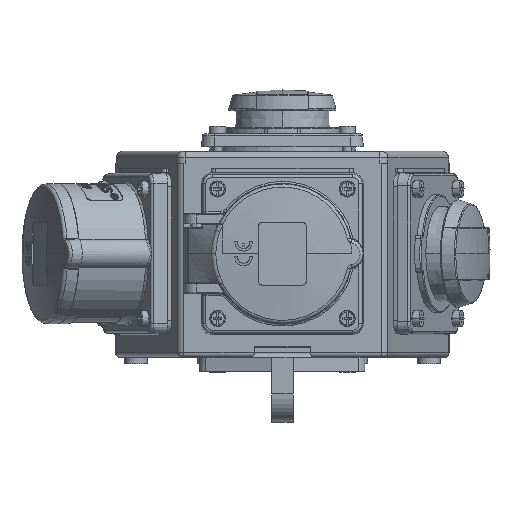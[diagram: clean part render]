
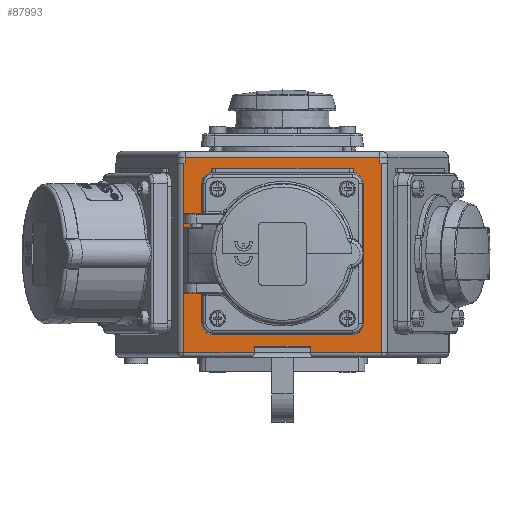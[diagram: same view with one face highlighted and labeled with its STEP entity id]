
A CAD part, front view. The second image highlights one B-rep face of the part: STEP entity #87993.
In plain terms, the highlighted planar face has unit normal (0, -1, 0).
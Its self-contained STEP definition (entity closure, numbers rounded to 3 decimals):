
#6517=DIRECTION('',(0.,0.,1.));
#6518=VECTOR('',#6517,2.5);
#6519=CARTESIAN_POINT('',(13.,-66.06,-46.));
#6520=LINE('4329',#6519,#6518);
#6524=DIRECTION('',(1.,0.,0.));
#6525=VECTOR('',#6524,26.);
#6526=CARTESIAN_POINT('',(-13.,-66.06,-43.5));
#6527=LINE('4331',#6526,#6525);
#6531=DIRECTION('',(0.,0.,1.));
#6532=VECTOR('',#6531,2.5);
#6533=CARTESIAN_POINT('',(-13.,-66.06,-46.));
#6534=LINE('4330',#6533,#6532);
#6538=DIRECTION('',(-1.,0.,0.));
#6539=VECTOR('',#6538,32.82);
#6540=CARTESIAN_POINT('',(-13.,-66.06,-46.));
#6541=LINE('4341',#6540,#6539);
#6545=DIRECTION('',(0.,0.,1.));
#6546=VECTOR('',#6545,87.8);
#6547=CARTESIAN_POINT('',(-45.82,-66.06,
-46.));
#6548=LINE('3549',#6547,#6546);
#6552=DIRECTION('',(0.,0.,-1.));
#6553=VECTOR('',#6552,2.7);
#6554=CARTESIAN_POINT('',(-45.094,-66.06,44.5));
#6555=LINE('3930',#6554,#6553);
#6559=DIRECTION('',(1.,0.,0.));
#6560=VECTOR('',#6559,90.187);
#6561=CARTESIAN_POINT('',(-45.094,-66.06,44.5));
#6562=LINE('3873',#6561,#6560);
#6566=DIRECTION('',(0.,0.,-1.));
#6567=VECTOR('',#6566,2.7);
#6568=CARTESIAN_POINT('',(45.094,-66.06,44.5));
#6569=LINE('3931',#6568,#6567);
#6573=DIRECTION('',(-1.,0.,0.));
#6574=VECTOR('',#6573,32.82);
#6575=CARTESIAN_POINT('',(45.82,-66.06,
-46.));
#6576=LINE('4340',#6575,#6574);
#6580=DIRECTION('',(0.,0.,-1.));
#6581=VECTOR('',#6580,2.);
#6582=CARTESIAN_POINT('',(-33.,-66.06,39.7));
#6583=LINE('3282',#6582,#6581);
#6587=DIRECTION('',(1.,0.,0.));
#6588=VECTOR('',#6587,66.);
#6589=CARTESIAN_POINT('',(-33.,-66.06,37.7));
#6590=LINE('3283',#6589,#6588);
#6594=DIRECTION('',(0.,0.,1.));
#6595=VECTOR('',#6594,2.);
#6596=CARTESIAN_POINT('',(33.,-66.06,37.7));
#6597=LINE('3284',#6596,#6595);
#6601=DIRECTION('',(-1.,0.,0.));
#6602=VECTOR('',#6601,66.);
#6603=CARTESIAN_POINT('',(33.,-66.06,39.7));
#6604=LINE('3285',#6603,#6602);
#6608=CARTESIAN_POINT('',(0.,-66.06,0.));
#6609=DIRECTION('',(0.,1.,0.));
#6610=DIRECTION('',(0.,0.,-1.));
#6611=AXIS2_PLACEMENT_3D('',#6608,#6609,#6610);
#6616=CARTESIAN_POINT('',(0.,-66.06,0.));
#6617=DIRECTION('',(0.,1.,0.));
#6618=DIRECTION('',(0.,0.,1.));
#6619=AXIS2_PLACEMENT_3D('',#6616,#6617,#6618);
#6624=CARTESIAN_POINT('',(-30.,-66.06,30.));
#6625=DIRECTION('',(0.,-1.,0.));
#6626=DIRECTION('',(0.,0.,1.));
#6627=AXIS2_PLACEMENT_3D('',#6624,#6625,#6626);
#6632=CARTESIAN_POINT('',(-30.,-66.06,30.));
#6633=DIRECTION('',(0.,-1.,0.));
#6634=DIRECTION('',(0.,0.,-1.));
#6635=AXIS2_PLACEMENT_3D('',#6632,#6633,#6634);
#6640=CARTESIAN_POINT('',(30.,-66.06,30.));
#6641=DIRECTION('',(0.,-1.,0.));
#6642=DIRECTION('',(0.,0.,1.));
#6643=AXIS2_PLACEMENT_3D('',#6640,#6641,#6642);
#6648=CARTESIAN_POINT('',(30.,-66.06,30.));
#6649=DIRECTION('',(0.,-1.,0.));
#6650=DIRECTION('',(0.,0.,-1.));
#6651=AXIS2_PLACEMENT_3D('',#6648,#6649,#6650);
#6656=CARTESIAN_POINT('',(-30.,-66.06,-30.));
#6657=DIRECTION('',(0.,-1.,0.));
#6658=DIRECTION('',(0.,0.,1.));
#6659=AXIS2_PLACEMENT_3D('',#6656,#6657,#6658);
#6664=CARTESIAN_POINT('',(-30.,-66.06,-30.));
#6665=DIRECTION('',(0.,-1.,0.));
#6666=DIRECTION('',(0.,0.,-1.));
#6667=AXIS2_PLACEMENT_3D('',#6664,#6665,#6666);
#6672=CARTESIAN_POINT('',(30.,-66.06,-30.));
#6673=DIRECTION('',(0.,-1.,0.));
#6674=DIRECTION('',(0.,0.,1.));
#6675=AXIS2_PLACEMENT_3D('',#6672,#6673,#6674);
#6680=CARTESIAN_POINT('',(30.,-66.06,-30.));
#6681=DIRECTION('',(0.,-1.,0.));
#6682=DIRECTION('',(0.,0.,-1.));
#6683=AXIS2_PLACEMENT_3D('',#6680,#6681,#6682);
#8741=DIRECTION('',(1.,0.,0.));
#8742=VECTOR('',#8741,0.727);
#8743=CARTESIAN_POINT('',(45.094,-66.06,41.8));
#8744=LINE('3912',#8743,#8742);
#9030=DIRECTION('',(1.,0.,0.));
#9031=VECTOR('',#9030,0.727);
#9032=CARTESIAN_POINT('',(-45.82,-66.06,41.8));
#9033=LINE('3911',#9032,#9031);
#47303=DIRECTION('',(0.,0.,1.));
#47304=VECTOR('',#47303,87.8);
#47305=CARTESIAN_POINT('',(45.82,-66.06,
-46.));
#47306=LINE('3550',#47305,#47304);
#71778=CARTESIAN_POINT('',(45.82,-66.06,-46.));
#71779=VERTEX_POINT('',#71778);
#71780=CARTESIAN_POINT('',(-45.82,-66.06,-46.));
#71781=VERTEX_POINT('',#71780);
#71854=CARTESIAN_POINT('',(-33.,-66.06,39.7));
#71855=CARTESIAN_POINT('',(-33.,-66.06,37.7));
#71856=VERTEX_POINT('',#71854);
#71857=VERTEX_POINT('',#71855);
#71858=CARTESIAN_POINT('',(33.,-66.06,37.7));
#71859=VERTEX_POINT('',#71858);
#71860=CARTESIAN_POINT('',(33.,-66.06,39.7));
#71861=VERTEX_POINT('',#71860);
#72150=CARTESIAN_POINT('',(-45.82,-66.06,41.8));
#72152=VERTEX_POINT('',#72150);
#72153=CARTESIAN_POINT('',(45.82,-66.06,41.8));
#72155=VERTEX_POINT('',#72153);
#72561=CARTESIAN_POINT('',(-45.094,-66.06,44.5));
#72562=VERTEX_POINT('',#72561);
#72565=CARTESIAN_POINT('',(45.094,-66.06,44.5));
#72566=VERTEX_POINT('',#72565);
#72611=CARTESIAN_POINT('',(-45.094,-66.06,41.8));
#72613=VERTEX_POINT('',#72611);
#72616=CARTESIAN_POINT('',(45.094,-66.06,41.8));
#72618=VERTEX_POINT('',#72616);
#73051=CARTESIAN_POINT('',(13.,-66.06,-46.));
#73052=CARTESIAN_POINT('',(13.,-66.06,-43.5));
#73053=VERTEX_POINT('',#73051);
#73054=VERTEX_POINT('',#73052);
#73055=CARTESIAN_POINT('',(-13.,-66.06,-46.));
#73056=CARTESIAN_POINT('',(-13.,-66.06,-43.5));
#73057=VERTEX_POINT('',#73055);
#73058=VERTEX_POINT('',#73056);
#77191=CARTESIAN_POINT('',(0.,-66.06,-29.248));
#77192=CARTESIAN_POINT('',(0.,-66.06,29.248));
#77193=VERTEX_POINT('',#77191);
#77194=VERTEX_POINT('',#77192);
#77839=CARTESIAN_POINT('',(-30.,-66.06,32.5));
#77840=CARTESIAN_POINT('',(-30.,-66.06,27.5));
#77841=VERTEX_POINT('',#77839);
#77842=VERTEX_POINT('',#77840);
#77929=CARTESIAN_POINT('',(30.,-66.06,32.5));
#77930=CARTESIAN_POINT('',(30.,-66.06,27.5));
#77931=VERTEX_POINT('',#77929);
#77932=VERTEX_POINT('',#77930);
#78019=CARTESIAN_POINT('',(-30.,-66.06,-27.5));
#78020=CARTESIAN_POINT('',(-30.,-66.06,-32.5));
#78021=VERTEX_POINT('',#78019);
#78022=VERTEX_POINT('',#78020);
#78109=CARTESIAN_POINT('',(30.,-66.06,-27.5));
#78110=CARTESIAN_POINT('',(30.,-66.06,-32.5));
#78111=VERTEX_POINT('',#78109);
#78112=VERTEX_POINT('',#78110);
#87923=CARTESIAN_POINT('',(48.,-66.06,40.5));
#87924=DIRECTION('',(0.,-1.,0.));
#87925=DIRECTION('',(-1.,0.,0.));
#87926=AXIS2_PLACEMENT_3D('',#87923,#87924,#87925);
#87927=PLANE('30',#87926);
#87929=ORIENTED_EDGE('4329',*,*,#87928,.T.);
#87931=ORIENTED_EDGE('4331',*,*,#87930,.F.);
#87933=ORIENTED_EDGE('4330',*,*,#87932,.F.);
#87935=ORIENTED_EDGE('4341',*,*,#87934,.T.);
#87937=ORIENTED_EDGE('3549',*,*,#87936,.T.);
#87939=ORIENTED_EDGE('3911',*,*,#87938,.T.);
#87941=ORIENTED_EDGE('3930',*,*,#87940,.F.);
#87943=ORIENTED_EDGE('3873',*,*,#87942,.T.);
#87945=ORIENTED_EDGE('3931',*,*,#87944,.T.);
#87947=ORIENTED_EDGE('3912',*,*,#87946,.T.);
#87949=ORIENTED_EDGE('3550',*,*,#87948,.F.);
#87951=ORIENTED_EDGE('4340',*,*,#87950,.T.);
#87952=EDGE_LOOP('30',(#87929,#87931,#87933,#87935,#87937,#87939,#87941,#87943,
#87945,#87947,#87949,#87951));
#87953=FACE_OUTER_BOUND('30',#87952,.F.);
#87955=ORIENTED_EDGE('3282',*,*,#87954,.T.);
#87957=ORIENTED_EDGE('3283',*,*,#87956,.T.);
#87959=ORIENTED_EDGE('3284',*,*,#87958,.T.);
#87961=ORIENTED_EDGE('3285',*,*,#87960,.T.);
#87962=EDGE_LOOP('30',(#87955,#87957,#87959,#87961));
#87963=FACE_BOUND('30',#87962,.F.);
#87965=ORIENTED_EDGE('8730',*,*,#87964,.F.);
#87967=ORIENTED_EDGE('8731',*,*,#87966,.F.);
#87968=EDGE_LOOP('30',(#87965,#87967));
#87969=FACE_BOUND('30',#87968,.F.);
#87971=ORIENTED_EDGE('9345',*,*,#87970,.T.);
#87973=ORIENTED_EDGE('9346',*,*,#87972,.T.);
#87974=EDGE_LOOP('30',(#87971,#87973));
#87975=FACE_BOUND('30',#87974,.F.);
#87977=ORIENTED_EDGE('9424',*,*,#87976,.T.);
#87979=ORIENTED_EDGE('9425',*,*,#87978,.T.);
#87980=EDGE_LOOP('30',(#87977,#87979));
#87981=FACE_BOUND('30',#87980,.F.);
#87983=ORIENTED_EDGE('9503',*,*,#87982,.T.);
#87984=ORIENTED_EDGE('9504',*,*,#87901,.T.);
#87985=EDGE_LOOP('30',(#87983,#87984));
#87986=FACE_BOUND('30',#87985,.F.);
#87988=ORIENTED_EDGE('9582',*,*,#87987,.T.);
#87990=ORIENTED_EDGE('9583',*,*,#87989,.T.);
#87991=EDGE_LOOP('30',(#87988,#87990));
#87992=FACE_BOUND('30',#87991,.F.);
#6612=CIRCLE('8730',#6611,29.248);
#6620=CIRCLE('8731',#6619,29.248);
#6628=CIRCLE('9345',#6627,2.5);
#6636=CIRCLE('9346',#6635,2.5);
#6644=CIRCLE('9424',#6643,2.5);
#6652=CIRCLE('9425',#6651,2.5);
#6660=CIRCLE('9503',#6659,2.5);
#6668=CIRCLE('9504',#6667,2.5);
#6676=CIRCLE('9582',#6675,2.5);
#6684=CIRCLE('9583',#6683,2.5);
#87901=EDGE_CURVE('9504',#78022,#78021,#6668,.T.);
#87928=EDGE_CURVE('4329',#73053,#73054,#6520,.T.);
#87930=EDGE_CURVE('4331',#73058,#73054,#6527,.T.);
#87932=EDGE_CURVE('4330',#73057,#73058,#6534,.T.);
#87934=EDGE_CURVE('4341',#73057,#71781,#6541,.T.);
#87936=EDGE_CURVE('3549',#71781,#72152,#6548,.T.);
#87938=EDGE_CURVE('3911',#72152,#72613,#9033,.T.);
#87940=EDGE_CURVE('3930',#72562,#72613,#6555,.T.);
#87942=EDGE_CURVE('3873',#72562,#72566,#6562,.T.);
#87944=EDGE_CURVE('3931',#72566,#72618,#6569,.T.);
#87946=EDGE_CURVE('3912',#72618,#72155,#8744,.T.);
#87948=EDGE_CURVE('3550',#71779,#72155,#47306,.T.);
#87950=EDGE_CURVE('4340',#71779,#73053,#6576,.T.);
#87954=EDGE_CURVE('3282',#71856,#71857,#6583,.T.);
#87956=EDGE_CURVE('3283',#71857,#71859,#6590,.T.);
#87958=EDGE_CURVE('3284',#71859,#71861,#6597,.T.);
#87960=EDGE_CURVE('3285',#71861,#71856,#6604,.T.);
#87964=EDGE_CURVE('8730',#77193,#77194,#6612,.T.);
#87966=EDGE_CURVE('8731',#77194,#77193,#6620,.T.);
#87970=EDGE_CURVE('9345',#77841,#77842,#6628,.T.);
#87972=EDGE_CURVE('9346',#77842,#77841,#6636,.T.);
#87976=EDGE_CURVE('9424',#77931,#77932,#6644,.T.);
#87978=EDGE_CURVE('9425',#77932,#77931,#6652,.T.);
#87982=EDGE_CURVE('9503',#78021,#78022,#6660,.T.);
#87987=EDGE_CURVE('9582',#78111,#78112,#6676,.T.);
#87989=EDGE_CURVE('9583',#78112,#78111,#6684,.T.);
#87993=ADVANCED_FACE('30',(#87953,#87963,#87969,#87975,#87981,#87986,#87992),
#87927,.T.);
